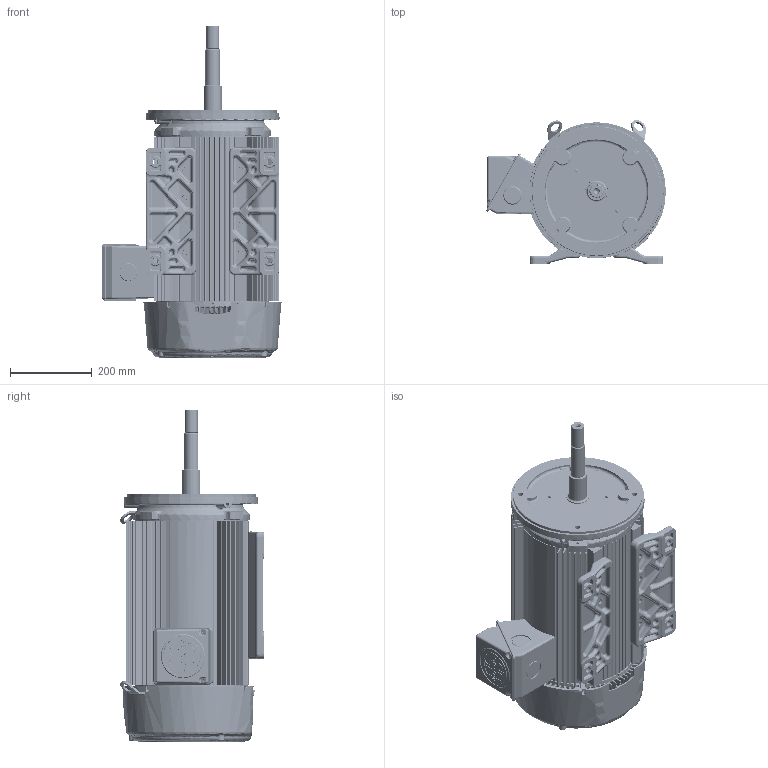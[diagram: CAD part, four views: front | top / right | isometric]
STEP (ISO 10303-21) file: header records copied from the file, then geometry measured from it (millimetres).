
FILE_DESCRIPTION((''),'2;1');
FILE_NAME('CCP_CFACE_ASM','2016-02-29T',('EMD2341'),('Nidec Motor Corporation'),'PRO/ENGINEER BY PARAMETRIC TECHNOLOGY CORPORATION, 2013150','PRO/ENGINEER BY PARAMETRIC TECHNOLOGY CORPORATION, 2013150','');
FILE_SCHEMA(('CONFIG_CONTROL_DESIGN'));
Length unit declared in the file: inch
Products named in the file (13): 0367969_AF0; 1001039; 0375099-BKT_AF2; 2033996-004_AF0; 0375600_ASM; 0561420; 0369710; 0364285; 0369733; 0364282-OBB; 0364292; 0368170; CCP_CFACE_ASM
Assembly tree (14 placements, depth 3):
  CCP_CFACE_ASM
    0367969_AF0
    1001039
    0375600_ASM
      0375099-BKT_AF2
      2033996-004_AF0
    0561420
    0369710
    0364285
    0369733  x2
    0364282-OBB
    0364292
    0368170  x2
Bounding box: 440.73 x 351.71 x 813.7 mm (x, y, z)
Volume: 11034699.5 mm3; surface area: 3310553.1 mm2
Topology: 15 solids, 15 shells, 9716 faces, 23025 edges, 13310 vertices
Faces by surface type: bspline 5015, cylinder 1650, plane 1394, torus 916, cone 556, sphere 185
Entity records: 482778 total; most frequent: CARTESIAN_POINT 305195, ORIENTED_EDGE 43170, DIRECTION 28458, EDGE_CURVE 21585, VERTEX_POINT 12515, AXIS2_PLACEMENT_3D 11659, EDGE_LOOP 9332, B_SPLINE_CURVE_WITH_KNOTS 9134
